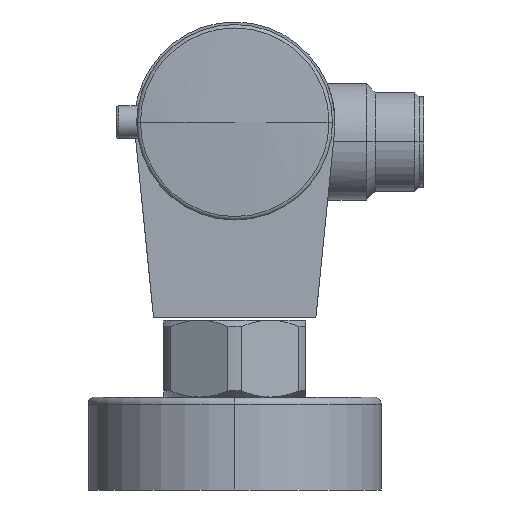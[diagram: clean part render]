
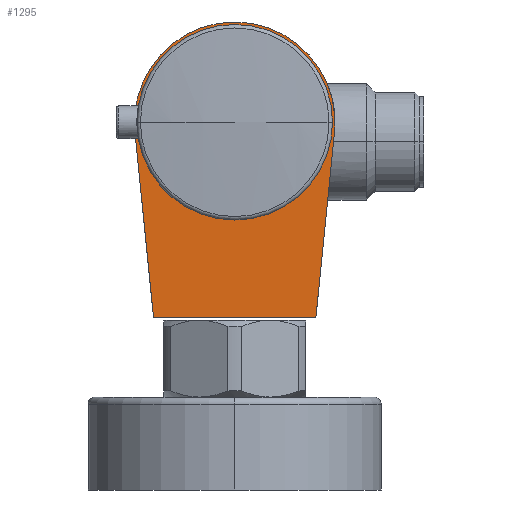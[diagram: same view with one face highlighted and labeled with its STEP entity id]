
A CAD part, left-side view. The second image highlights one B-rep face of the part: STEP entity #1295.
In plain terms, the highlighted planar face has unit normal (-1, 0, 0).
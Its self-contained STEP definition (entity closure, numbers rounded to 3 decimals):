
#221=CARTESIAN_POINT('',(-91.,0.,0.));
#222=DIRECTION('',(-1.,0.,0.));
#223=DIRECTION('',(0.,-0.995,-0.1));
#224=AXIS2_PLACEMENT_3D('',#221,#222,#223);
#433=CARTESIAN_POINT('',(-91.,15.048,-39.659));
#434=DIRECTION('',(1.,0.,0.));
#435=DIRECTION('',(0.,0.976,-0.216));
#436=AXIS2_PLACEMENT_3D('',#433,#434,#435);
#438=DIRECTION('',(0.,0.1,0.995));
#439=VECTOR('',#438,37.964);
#440=CARTESIAN_POINT('',(-91.,16.618,-39.816));
#441=LINE('',#440,#439);
#442=DIRECTION('',(0.,0.1,-0.995));
#443=VECTOR('',#442,37.964);
#444=CARTESIAN_POINT('',(-91.,-20.398,-2.041));
#445=LINE('',#444,#443);
#446=CARTESIAN_POINT('',(-91.,-15.048,-39.659));
#447=DIRECTION('',(1.,0.,0.));
#448=DIRECTION('',(0.,-0.995,-0.1));
#449=AXIS2_PLACEMENT_3D('',#446,#447,#448);
#451=DIRECTION('',(0.,-1.,0.));
#452=VECTOR('',#451,33.178);
#453=CARTESIAN_POINT('',(-91.,16.589,-40.));
#454=LINE('',#453,#452);
#931=CARTESIAN_POINT('',(-91.,16.589,-40.));
#932=VERTEX_POINT('',#931);
#933=CARTESIAN_POINT('',(-91.,-16.589,-40.));
#934=VERTEX_POINT('',#933);
#950=CARTESIAN_POINT('',(-91.,-16.618,-39.816));
#951=VERTEX_POINT('',#950);
#952=CARTESIAN_POINT('',(-91.,16.618,-39.816));
#953=VERTEX_POINT('',#952);
#954=CARTESIAN_POINT('',(-91.,20.398,-2.041));
#955=VERTEX_POINT('',#954);
#956=CARTESIAN_POINT('',(-91.,-20.398,-2.041));
#957=VERTEX_POINT('',#956);
#1278=CARTESIAN_POINT('',(-91.,0.,0.));
#1279=DIRECTION('',(-1.,0.,0.));
#1280=DIRECTION('',(0.,0.,1.));
#1281=AXIS2_PLACEMENT_3D('',#1278,#1279,#1280);
#1282=PLANE('',#1281);
#1284=ORIENTED_EDGE('',*,*,#1283,.F.);
#1286=ORIENTED_EDGE('',*,*,#1285,.T.);
#1288=ORIENTED_EDGE('',*,*,#1287,.T.);
#1289=ORIENTED_EDGE('',*,*,#1245,.F.);
#1290=ORIENTED_EDGE('',*,*,#1091,.T.);
#1292=ORIENTED_EDGE('',*,*,#1291,.T.);
#1293=EDGE_LOOP('',(#1284,#1286,#1288,#1289,#1290,#1292));
#1294=FACE_OUTER_BOUND('',#1293,.F.);
#1295=ADVANCED_FACE('',(#1294),#1282,.T.);
#225=CIRCLE('',#224,20.5);
#437=CIRCLE('',#436,1.578);
#450=CIRCLE('',#449,1.578);
#1091=EDGE_CURVE('',#957,#951,#445,.T.);
#1245=EDGE_CURVE('',#957,#955,#225,.T.);
#1283=EDGE_CURVE('',#932,#934,#454,.T.);
#1285=EDGE_CURVE('',#932,#953,#437,.T.);
#1287=EDGE_CURVE('',#953,#955,#441,.T.);
#1291=EDGE_CURVE('',#951,#934,#450,.T.);
